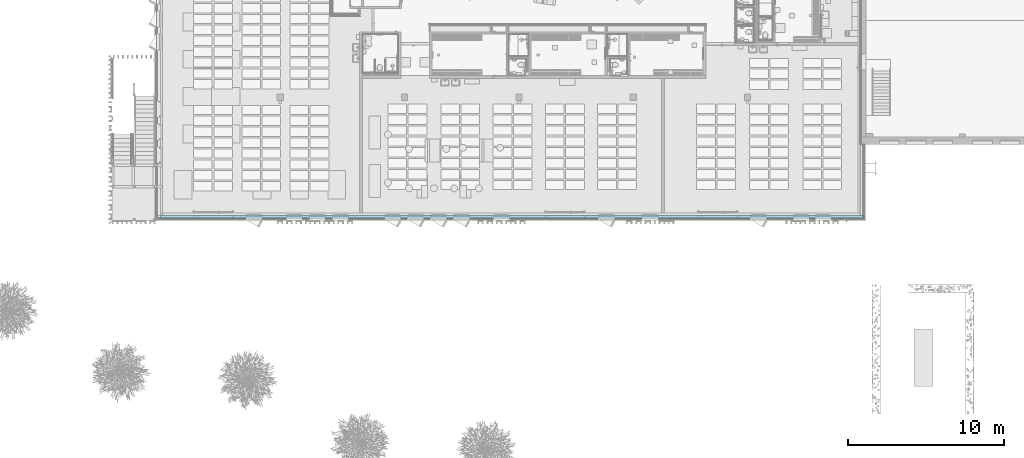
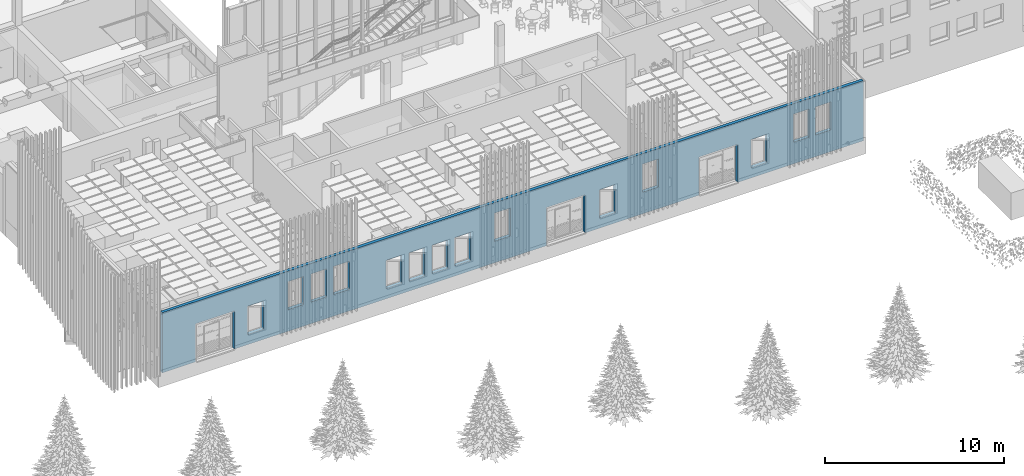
# One storey, part 180 of 301: 1 building element part, 20 openings, 1 element without a shape of its own.
"""IFC2X3 building model written with IfcOpenShell, lengths in millimetres."""

from ifc_helpers import new_model, entity, si_unit, converted_unit, derived_unit, money_unit, direction, frame, origin_with_axes, place, context, subcontext, project, spatial, faceted_brep, material, type_object, element, aggregate, save


model = new_model("IFC2X3")

# Units and contexts
model_context = context("Model", 3, precision=0.01, world=origin_with_axes(), true_north=direction((0.0, 1.0)))
body_context = subcontext(model_context, "Body", "Model", "MODEL_VIEW")
ifc_project = project(units=[si_unit("LENGTHUNIT", "METRE", prefix="MILLI"), si_unit("AREAUNIT", "SQUARE_METRE"), si_unit("VOLUMEUNIT", "CUBIC_METRE"), converted_unit("PLANEANGLEUNIT", "DEGREE", entity("IfcPlaneAngleMeasure", 0.0174532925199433), si_unit("PLANEANGLEUNIT", "RADIAN"), dimensions=[0, 0, 0, 0, 0, 0, 0]), money_unit("EUR"), converted_unit("TIMEUNIT", "Year", entity("IfcTimeMeasure", 31557600.0), si_unit("TIMEUNIT", "SECOND"), dimensions=[0, 0, 1, 0, 0, 0, 0]), si_unit("MASSUNIT", "GRAM", prefix="KILO"), si_unit("THERMODYNAMICTEMPERATUREUNIT", "DEGREE_CELSIUS"), si_unit("LUMINOUSINTENSITYUNIT", "LUMEN"), si_unit("ENERGYUNIT", "JOULE", prefix="MEGA"), derived_unit("THERMALCONDUCTANCEUNIT", [(si_unit("POWERUNIT", "WATT"), 1), (si_unit("LENGTHUNIT", "METRE"), -1), (si_unit("THERMODYNAMICTEMPERATUREUNIT", "KELVIN"), -1)]), derived_unit("SPECIFICHEATCAPACITYUNIT", [(si_unit("ENERGYUNIT", "JOULE"), 1), (si_unit("MASSUNIT", "GRAM", prefix="KILO"), -1), (si_unit("THERMODYNAMICTEMPERATUREUNIT", "KELVIN"), -1)]), derived_unit("MASSDENSITYUNIT", [(si_unit("MASSUNIT", "GRAM", prefix="KILO"), 1), (si_unit("VOLUMEUNIT", "CUBIC_METRE"), -1)])], contexts=[model_context])

# Site, building, storey
site_placement = place(None, frame((0.0, 0.0, 8650.0), z_axis=(0.0, 0.0, 1.0), x_axis=(1.0, 0.0, 0.0)))
site = spatial("IfcSite", under=ifc_project, at=site_placement, Name="43301:001:0844", CompositionType="ELEMENT")
building_placement = place(site_placement, origin_with_axes())
building = spatial("IfcBuilding", under=site, at=building_placement, Name="Kuressaare Ametikooli tuulikute mehaanikute õppekorpus", CompositionType="ELEMENT")
storey_placement = place(building_placement, origin_with_axes())
storey = spatial("IfcBuildingStorey", under=building, at=storey_placement, Name="1.korrus", CompositionType="ELEMENT", Elevation=0.0)

# Wall, openings, building element part
wall_type = type_object("IfcWallType", Name="VS1 437", PredefinedType="NOTDEFINED")
wall_placement = place(storey_placement, frame((133024.9464416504, 9123.838490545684, 0.0), z_axis=(0.0, 0.0, 1.0), x_axis=(-1.0, 0.0, 0.0)))
wall = element("IfcWall", 1, at=wall_placement, inside=storey, type_object=wall_type, Name="Sisesein")
opening_1_placement = place(wall_placement, frame((26976.99415685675, 0.0, 700.0), z_axis=(0.0, 0.0, 1.0), x_axis=(1.0, 0.0, 0.0)))
element("IfcOpeningElement", 2, at=opening_1_placement, cuts=wall, Name="A-1g", context=body_context, shape_type="Brep", body=[
    faceted_brep([(-504.9999999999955, 219.9999999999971, 0.0), (-504.9999999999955, 219.9999999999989, 1910.0), (-504.9999999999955, 437.9999999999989, 1910.0), (-504.9999999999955, 437.9999999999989, 0.0), (-504.9999999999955, -1.000000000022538, 0.0), (-504.9999999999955, -1.000000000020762, 1910.0), (504.9999999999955, 219.9999999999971, 1910.0), (504.9999999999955, 437.9999999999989, 1910.0), (504.9999999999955, -1.000000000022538, 1910.0), (504.9999999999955, 437.9999999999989, 0.0), (504.9999999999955, 219.9999999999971, 0.0), (504.9999999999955, -1.000000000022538, 0.0)], [[[0, 1, 2, 3]], [[1, 0, 4, 5]], [[6, 7, 2, 1, 5, 8]], [[7, 9, 3, 2]], [[0, 3, 9, 10, 11, 4]], [[5, 4, 11, 8]], [[6, 10, 9, 7]], [[10, 6, 8, 11]]]),
])
opening_2_placement = place(wall_placement, frame((29926.99415685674, 0.0, 700.0000000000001), z_axis=(0.0, 0.0, 1.0), x_axis=(1.0, 0.0, 0.0)))
element("IfcOpeningElement", 3, at=opening_2_placement, cuts=wall, Name="A-1g", context=body_context, shape_type="Brep", body=[
    faceted_brep([(-504.9999999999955, 219.9999999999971, 0.0), (-504.9999999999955, 219.9999999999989, 1910.0), (-504.9999999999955, 437.9999999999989, 1910.0), (-504.9999999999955, 437.9999999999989, 0.0), (-504.9999999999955, -1.000000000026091, 0.0), (-504.9999999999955, -1.000000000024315, 1910.0), (504.9999999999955, 219.9999999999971, 1910.0), (504.9999999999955, 437.9999999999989, 1910.0), (504.9999999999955, -1.000000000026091, 1910.0), (504.9999999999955, 437.9999999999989, 0.0), (504.9999999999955, 219.9999999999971, 0.0), (504.9999999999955, -1.000000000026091, 0.0)], [[[0, 1, 2, 3]], [[1, 0, 4, 5]], [[6, 7, 2, 1, 5, 8]], [[7, 9, 3, 2]], [[0, 3, 9, 10, 11, 4]], [[5, 4, 11, 8]], [[6, 10, 9, 7]], [[10, 6, 8, 11]]]),
])
opening_3_placement = place(wall_placement, frame((2241.190539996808, 0.0, 1475.000000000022), z_axis=(0.0, 0.0, 1.0), x_axis=(1.0, 0.0, 0.0)))
element("IfcOpeningElement", 4, at=opening_3_placement, cuts=wall, Name="A-1g,SE", context=body_context, shape_type="Brep", body=[
    faceted_brep([(-504.9999999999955, 220.0000000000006, 0.0), (-504.9999999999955, 220.0000000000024, 1910.0), (-504.9999999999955, 437.9999999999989, 1910.0), (-504.9999999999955, 437.9999999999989, 0.0), (-504.9999999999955, -1.000000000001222, 0.0), (-504.9999999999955, -0.9999999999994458, 1910.0), (504.9999999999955, 220.0000000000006, 1910.0), (504.9999999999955, 437.9999999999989, 1910.0), (504.9999999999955, -1.000000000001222, 1910.0), (504.9999999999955, 437.9999999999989, 0.0), (504.9999999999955, 220.0000000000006, 0.0), (504.9999999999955, -1.000000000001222, 0.0)], [[[0, 1, 2, 3]], [[1, 0, 4, 5]], [[6, 7, 2, 1, 5, 8]], [[7, 9, 3, 2]], [[0, 3, 9, 10, 11, 4]], [[5, 4, 11, 8]], [[6, 10, 9, 7]], [[10, 6, 8, 11]]]),
])
opening_4_placement = place(wall_placement, frame((13381.72835363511, 0.0, 1475.000000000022), z_axis=(0.0, 0.0, 1.0), x_axis=(1.0, 0.0, 0.0)))
element("IfcOpeningElement", 5, at=opening_4_placement, cuts=wall, Name="A-1g,SE", context=body_context, shape_type="Brep", body=[
    faceted_brep([(-504.9999999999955, 219.9999999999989, 0.0), (-504.9999999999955, 220.0000000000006, 1910.0), (-504.9999999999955, 437.9999999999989, 1910.0), (-504.9999999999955, 437.9999999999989, 0.0), (-504.9999999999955, -1.000000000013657, 0.0), (-504.9999999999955, -1.00000000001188, 1910.0), (504.9999999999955, 219.9999999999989, 1910.0), (504.9999999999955, 437.9999999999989, 1910.0), (504.9999999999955, -1.000000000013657, 1910.0), (504.9999999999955, 437.9999999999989, 0.0), (504.9999999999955, 219.9999999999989, 0.0), (504.9999999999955, -1.000000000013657, 0.0)], [[[0, 1, 2, 3]], [[1, 0, 4, 5]], [[6, 7, 2, 1, 5, 8]], [[7, 9, 3, 2]], [[0, 3, 9, 10, 11, 4]], [[5, 4, 11, 8]], [[6, 10, 9, 7]], [[10, 6, 8, 11]]]),
])
opening_5_placement = place(wall_placement, frame((25501.99415685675, 0.0, 700.0), z_axis=(0.0, 0.0, 1.0), x_axis=(1.0, 0.0, 0.0)))
element("IfcOpeningElement", 6, at=opening_5_placement, cuts=wall, Name="A-1g", context=body_context, shape_type="Brep", body=[
    faceted_brep([(-504.9999999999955, 219.9999999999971, 0.0), (-504.9999999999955, 219.9999999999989, 1910.0), (-504.9999999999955, 437.9999999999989, 1910.0), (-504.9999999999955, 437.9999999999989, 0.0), (-504.9999999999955, -1.000000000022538, 0.0), (-504.9999999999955, -1.000000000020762, 1910.0), (504.9999999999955, 219.9999999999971, 1910.0), (504.9999999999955, 437.9999999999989, 1910.0), (504.9999999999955, -1.000000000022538, 1910.0), (504.9999999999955, 437.9999999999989, 0.0), (504.9999999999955, 219.9999999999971, 0.0), (504.9999999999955, -1.000000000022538, 0.0)], [[[0, 1, 2, 3]], [[1, 0, 4, 5]], [[6, 7, 2, 1, 5, 8]], [[7, 9, 3, 2]], [[0, 3, 9, 10, 11, 4]], [[5, 4, 11, 8]], [[6, 10, 9, 7]], [[10, 6, 8, 11]]]),
])
opening_6_placement = place(wall_placement, frame((6401.877929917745, 0.0, 700.0), z_axis=(0.0, 0.0, 1.0), x_axis=(1.0, 0.0, 0.0)))
element("IfcOpeningElement", 7, at=opening_6_placement, cuts=wall, Name="A-1g", context=body_context, shape_type="Brep", body=[
    faceted_brep([(-504.9999999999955, 220.0000000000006, 0.0), (-504.9999999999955, 220.0000000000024, 1910.0), (-504.9999999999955, 437.9999999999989, 1910.0), (-504.9999999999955, 437.9999999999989, 0.0), (-504.9999999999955, -1.000000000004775, 0.0), (-504.9999999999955, -1.000000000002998, 1910.0), (504.9999999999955, 220.0000000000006, 1910.0), (504.9999999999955, 437.9999999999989, 1910.0), (504.9999999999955, -1.000000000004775, 1910.0), (504.9999999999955, 437.9999999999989, 0.0), (504.9999999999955, 220.0000000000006, 0.0), (504.9999999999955, -1.000000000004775, 0.0)], [[[0, 1, 2, 3]], [[1, 0, 4, 5]], [[6, 7, 2, 1, 5, 8]], [[7, 9, 3, 2]], [[0, 3, 9, 10, 11, 4]], [[5, 4, 11, 8]], [[6, 10, 9, 7]], [[10, 6, 8, 11]]]),
])
opening_7_placement = place(wall_placement, frame((22926.99691245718, 0.0, 1475.000000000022), z_axis=(0.0, 0.0, 1.0), x_axis=(1.0, 0.0, 0.0)))
element("IfcOpeningElement", 8, at=opening_7_placement, cuts=wall, Name="A-1g,SE", context=body_context, shape_type="Brep", body=[
    faceted_brep([(-504.9999999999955, 219.9999999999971, 0.0), (-504.9999999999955, 219.9999999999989, 1910.0), (-504.9999999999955, 437.9999999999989, 1910.0), (-504.9999999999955, 437.9999999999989, 0.0), (-504.9999999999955, -1.000000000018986, 0.0), (-504.9999999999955, -1.000000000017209, 1910.0), (504.9999999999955, 219.9999999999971, 1910.0), (504.9999999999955, 437.9999999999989, 1910.0), (504.9999999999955, -1.000000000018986, 1910.0), (504.9999999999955, 437.9999999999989, 0.0), (504.9999999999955, 219.9999999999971, 0.0), (504.9999999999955, -1.000000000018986, 0.0)], [[[0, 1, 2, 3]], [[1, 0, 4, 5]], [[6, 7, 2, 1, 5, 8]], [[7, 9, 3, 2]], [[0, 3, 9, 10, 11, 4]], [[5, 4, 11, 8]], [[6, 10, 9, 7]], [[10, 6, 8, 11]]]),
])
opening_8_placement = place(wall_placement, frame((38843.87792991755, 0.0, 700.0), z_axis=(0.0, 0.0, 1.0), x_axis=(1.0, 0.0, 0.0)))
element("IfcOpeningElement", 9, at=opening_8_placement, cuts=wall, Name="A-1g", context=body_context, shape_type="Brep", body=[
    faceted_brep([(-504.9999999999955, 219.9999999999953, 0.0), (-504.9999999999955, 219.9999999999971, 1910.0), (-504.9999999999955, 437.9999999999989, 1910.0), (-504.9999999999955, 437.9999999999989, 0.0), (-504.9999999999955, -1.000000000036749, 0.0), (-504.9999999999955, -1.000000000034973, 1910.0), (504.9999999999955, 219.9999999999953, 1910.0), (504.9999999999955, 437.9999999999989, 1910.0), (504.9999999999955, -1.000000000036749, 1910.0), (504.9999999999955, 437.9999999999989, 0.0), (504.9999999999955, 219.9999999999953, 0.0), (504.9999999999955, -1.000000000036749, 0.0)], [[[0, 1, 2, 3]], [[1, 0, 4, 5]], [[6, 7, 2, 1, 5, 8]], [[7, 9, 3, 2]], [[0, 3, 9, 10, 11, 4]], [[5, 4, 11, 8]], [[6, 10, 9, 7]], [[10, 6, 8, 11]]]),
])
opening_9_placement = place(wall_placement, frame((16176.99691245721, 0.0, 700.0), z_axis=(0.0, 0.0, 1.0), x_axis=(1.0, 0.0, 0.0)))
element("IfcOpeningElement", 10, at=opening_9_placement, cuts=wall, Name="A-1g", context=body_context, shape_type="Brep", body=[
    faceted_brep([(-504.9999999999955, 219.9999999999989, 0.0), (-504.9999999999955, 220.0000000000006, 1910.0), (-504.9999999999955, 437.9999999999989, 1910.0), (-504.9999999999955, 437.9999999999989, 0.0), (-504.9999999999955, -1.000000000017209, 0.0), (-504.9999999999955, -1.000000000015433, 1910.0), (504.9999999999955, 219.9999999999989, 1910.0), (504.9999999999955, 437.9999999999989, 1910.0), (504.9999999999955, -1.000000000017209, 1910.0), (504.9999999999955, 437.9999999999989, 0.0), (504.9999999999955, 219.9999999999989, 0.0), (504.9999999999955, -1.000000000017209, 0.0)], [[[0, 1, 2, 3]], [[1, 0, 4, 5]], [[6, 7, 2, 1, 5, 8]], [[7, 9, 3, 2]], [[0, 3, 9, 10, 11, 4]], [[5, 4, 11, 8]], [[6, 10, 9, 7]], [[10, 6, 8, 11]]]),
])
opening_10_placement = place(wall_placement, frame((3661.862783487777, 0.0, 1475.000000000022), z_axis=(0.0, 0.0, 1.0), x_axis=(1.0, 0.0, 0.0)))
element("IfcOpeningElement", 11, at=opening_10_placement, cuts=wall, Name="A-1g,SE", context=body_context, shape_type="Brep", body=[
    faceted_brep([(-504.9999999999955, 220.0000000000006, 0.0), (-504.9999999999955, 220.0000000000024, 1910.0), (-504.9999999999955, 437.9999999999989, 1910.0), (-504.9999999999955, 437.9999999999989, 0.0), (-504.9999999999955, -1.000000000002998, 0.0), (-504.9999999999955, -1.000000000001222, 1910.0), (504.9999999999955, 220.0000000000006, 1910.0), (504.9999999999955, 437.9999999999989, 1910.0), (504.9999999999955, -1.000000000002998, 1910.0), (504.9999999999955, 437.9999999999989, 0.0), (504.9999999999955, 220.0000000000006, 0.0), (504.9999999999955, -1.000000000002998, 0.0)], [[[0, 1, 2, 3]], [[1, 0, 4, 5]], [[6, 7, 2, 1, 5, 8]], [[7, 9, 3, 2]], [[0, 3, 9, 10, 11, 4]], [[5, 4, 11, 8]], [[6, 10, 9, 7]], [[10, 6, 8, 11]]]),
])
opening_11_placement = place(wall_placement, frame((36251.877858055, 0.0, 1475.000000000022), z_axis=(0.0, 0.0, 1.0), x_axis=(1.0, 0.0, 0.0)))
element("IfcOpeningElement", 12, at=opening_11_placement, cuts=wall, Name="A-1g,SE", context=body_context, shape_type="Brep", body=[
    faceted_brep([(-504.9999999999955, 219.9999999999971, 0.0), (-504.9999999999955, 219.9999999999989, 1910.0), (-504.9999999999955, 437.9999999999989, 1910.0), (-504.9999999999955, 437.9999999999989, 0.0), (-504.9999999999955, -1.00000000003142, 0.0), (-504.9999999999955, -1.000000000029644, 1910.0), (504.9999999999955, 219.9999999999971, 1910.0), (504.9999999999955, 437.9999999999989, 1910.0), (504.9999999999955, -1.00000000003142, 1910.0), (504.9999999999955, 437.9999999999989, 0.0), (504.9999999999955, 219.9999999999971, 0.0), (504.9999999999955, -1.00000000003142, 0.0)], [[[0, 1, 2, 3]], [[1, 0, 4, 5]], [[6, 7, 2, 1, 5, 8]], [[7, 9, 3, 2]], [[0, 3, 9, 10, 11, 4]], [[5, 4, 11, 8]], [[6, 10, 9, 7]], [[10, 6, 8, 11]]]),
])
opening_12_placement = place(wall_placement, frame((33301.87785805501, 0.0, 1475.000000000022), z_axis=(0.0, 0.0, 1.0), x_axis=(1.0, 0.0, 0.0)))
element("IfcOpeningElement", 13, at=opening_12_placement, cuts=wall, Name="A-1g,SE", context=body_context, shape_type="Brep", body=[
    faceted_brep([(-504.9999999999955, 219.9999999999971, 0.0), (-504.9999999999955, 219.9999999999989, 1910.0), (-504.9999999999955, 437.9999999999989, 1910.0), (-504.9999999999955, 437.9999999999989, 0.0), (-504.9999999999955, -1.000000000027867, 0.0), (-504.9999999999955, -1.000000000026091, 1910.0), (504.9999999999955, 219.9999999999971, 1910.0), (504.9999999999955, 437.9999999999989, 1910.0), (504.9999999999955, -1.000000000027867, 1910.0), (504.9999999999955, 437.9999999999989, 0.0), (504.9999999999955, 219.9999999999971, 0.0), (504.9999999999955, -1.000000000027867, 0.0)], [[[0, 1, 2, 3]], [[1, 0, 4, 5]], [[6, 7, 2, 1, 5, 8]], [[7, 9, 3, 2]], [[0, 3, 9, 10, 11, 4]], [[5, 4, 11, 8]], [[6, 10, 9, 7]], [[10, 6, 8, 11]]]),
])
opening_13_placement = place(wall_placement, frame((34776.877858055, 0.0, 1475.000000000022), z_axis=(0.0, 0.0, 1.0), x_axis=(1.0, 0.0, 0.0)))
element("IfcOpeningElement", 14, at=opening_13_placement, cuts=wall, Name="A-1g,SE", context=body_context, shape_type="Brep", body=[
    faceted_brep([(-504.9999999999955, 219.9999999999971, 0.0), (-504.9999999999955, 219.9999999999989, 1910.0), (-504.9999999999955, 437.9999999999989, 1910.0), (-504.9999999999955, 437.9999999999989, 0.0), (-504.9999999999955, -1.000000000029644, 0.0), (-504.9999999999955, -1.000000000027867, 1910.0), (504.9999999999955, 219.9999999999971, 1910.0), (504.9999999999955, 437.9999999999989, 1910.0), (504.9999999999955, -1.000000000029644, 1910.0), (504.9999999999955, 437.9999999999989, 0.0), (504.9999999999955, 219.9999999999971, 0.0), (504.9999999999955, -1.000000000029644, 0.0)], [[[0, 1, 2, 3]], [[1, 0, 4, 5]], [[6, 7, 2, 1, 5, 8]], [[7, 9, 3, 2]], [[0, 3, 9, 10, 11, 4]], [[5, 4, 11, 8]], [[6, 10, 9, 7]], [[10, 6, 8, 11]]]),
])
opening_14_placement = place(wall_placement, frame((18848.67342500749, 0.0, 0.0), z_axis=(0.0, 0.0, 1.0), x_axis=(1.0, 0.0, 0.0)))
element("IfcOpeningElement", 15, at=opening_14_placement, cuts=wall, Name="Ava seinas", context=body_context, shape_type="Brep", body=[
    faceted_brep([(-1219.999999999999, 139.9999999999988, 0.0), (-1219.999999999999, 140.0000000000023, 2570.0), (-1219.999999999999, 438.0000000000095, 2570.0), (-1219.999999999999, 438.0000000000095, 0.0), (1219.999999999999, 140.0000000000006, 2570.0), (-1250.0, 139.9999999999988, 0.0), (-1250.0, 140.0000000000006, 2600.0), (1250.0, 139.9999999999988, 2600.0), (1250.0, 139.9999999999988, 0.0), (1219.999999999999, 139.9999999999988, 0.0), (1219.999999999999, 438.0000000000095, 2570.0), (1219.999999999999, 438.0000000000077, 0.0), (1250.0, -1.00000000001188, 0.0), (-1250.0, -1.00000000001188, 0.0), (-1250.0, -1.000000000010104, 2600.0), (1250.0, -1.00000000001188, 2600.0)], [[[0, 1, 2, 3]], [[4, 1, 0, 5, 6, 7, 8, 9]], [[1, 4, 10, 2]], [[10, 11, 3, 2]], [[9, 0, 3, 11]], [[0, 9, 8, 12, 13, 5]], [[6, 5, 13, 14]], [[7, 6, 14, 15]], [[8, 7, 15, 12]], [[4, 9, 11, 10]], [[14, 13, 12, 15]]]),
])
opening_15_placement = place(wall_placement, frame((41461.22668595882, 0.0, 0.0), z_axis=(0.0, 0.0, 1.0), x_axis=(1.0, 0.0, 0.0)))
element("IfcOpeningElement", 16, at=opening_15_placement, cuts=wall, Name="Ava seinas", context=body_context, shape_type="Brep", body=[
    faceted_brep([(-1219.999999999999, 139.9999999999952, 0.0), (-1219.999999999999, 139.999999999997, 2570.0), (-1219.999999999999, 438.0000000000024, 2570.0), (-1219.999999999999, 438.0000000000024, 0.0), (1219.999999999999, 139.9999999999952, 2570.0), (-1250.0, 139.9999999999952, 0.0), (-1250.0, 139.999999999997, 2600.0), (1250.0, 139.9999999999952, 2600.0), (1250.0, 139.9999999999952, 0.0), (1219.999999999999, 139.9999999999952, 0.0), (1219.999999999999, 438.0000000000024, 2570.0), (1219.999999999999, 438.0000000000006, 0.0), (1250.0, -1.000000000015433, 0.0), (-1250.0, -1.000000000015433, 0.0), (-1250.0, -1.000000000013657, 2600.0), (1250.0, -1.000000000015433, 2600.0)], [[[0, 1, 2, 3]], [[4, 1, 0, 5, 6, 7, 8, 9]], [[1, 4, 10, 2]], [[10, 11, 3, 2]], [[9, 0, 3, 11]], [[0, 9, 8, 12, 13, 5]], [[6, 5, 13, 14]], [[7, 6, 14, 15]], [[8, 7, 15, 12]], [[4, 9, 11, 10]], [[14, 13, 12, 15]]]),
])
opening_16_placement = place(wall_placement, frame((18848.67342500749, 0.0, 0.0), z_axis=(0.0, 0.0, 1.0), x_axis=(1.0, 0.0, 0.0)))
element("IfcOpeningElement", 17, at=opening_16_placement, cuts=wall, Name="TÕU25x26", context=body_context, shape_type="Brep", body=[
    faceted_brep([(-1250.0, 436.9999999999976, 0.0), (-1250.0, 436.9999999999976, 2600.0), (-1250.0, 437.9999999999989, 2600.0), (-1250.0, 437.9999999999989, 0.0), (-1250.0, -0.9999999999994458, 0.0), (-1250.0, -0.9999999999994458, 2600.0), (1250.0, 436.9999999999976, 2600.0), (1250.0, 437.9999999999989, 2600.0), (1250.0, 437.9999999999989, 0.0), (1250.0, 436.9999999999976, 0.0), (1250.0, -0.9999999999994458, 0.0), (1250.0, -0.9999999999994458, 2600.0)], [[[0, 1, 2, 3]], [[1, 0, 4, 5]], [[1, 6, 7, 2]], [[8, 3, 2, 7]], [[9, 0, 3, 8]], [[0, 9, 10, 4]], [[5, 4, 10, 11]], [[6, 1, 5, 11]], [[6, 9, 8, 7]], [[9, 6, 11, 10]]]),
])
opening_17_placement = place(wall_placement, frame((9019.226685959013, 0.0, 0.0), z_axis=(0.0, 0.0, 1.0), x_axis=(1.0, 0.0, 0.0)))
element("IfcOpeningElement", 18, at=opening_17_placement, cuts=wall, Name="Ava seinas", context=body_context, shape_type="Brep", body=[
    faceted_brep([(-1219.999999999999, 139.9999999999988, 0.0), (-1219.999999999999, 140.0000000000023, 2570.0), (-1219.999999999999, 438.0000000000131, 2570.0), (-1219.999999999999, 438.0000000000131, 0.0), (1219.999999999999, 140.0000000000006, 2570.0), (-1250.0, 139.9999999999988, 0.0), (-1250.0, 140.0000000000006, 2600.0), (1250.0, 139.9999999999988, 2600.0), (1250.0, 139.9999999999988, 0.0), (1219.999999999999, 139.9999999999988, 0.0), (1219.999999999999, 438.0000000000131, 2570.0), (1219.999999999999, 438.0000000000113, 0.0), (1250.0, -1.000000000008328, 0.0), (-1250.0, -1.000000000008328, 0.0), (-1250.0, -1.000000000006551, 2600.0), (1250.0, -1.000000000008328, 2600.0)], [[[0, 1, 2, 3]], [[4, 1, 0, 5, 6, 7, 8, 9]], [[1, 4, 10, 2]], [[10, 11, 3, 2]], [[9, 0, 3, 11]], [[0, 9, 8, 12, 13, 5]], [[6, 5, 13, 14]], [[7, 6, 14, 15]], [[8, 7, 15, 12]], [[4, 9, 11, 10]], [[14, 13, 12, 15]]]),
])
opening_18_placement = place(wall_placement, frame((28451.99415685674, 0.0, 700.0), z_axis=(0.0, 0.0, 1.0), x_axis=(1.0, 0.0, 0.0)))
element("IfcOpeningElement", 19, at=opening_18_placement, cuts=wall, Name="A-1g", context=body_context, shape_type="Brep", body=[
    faceted_brep([(-504.9999999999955, 219.9999999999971, 0.0), (-504.9999999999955, 219.9999999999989, 1910.0), (-504.9999999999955, 437.9999999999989, 1910.0), (-504.9999999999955, 437.9999999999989, 0.0), (-504.9999999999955, -1.000000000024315, 0.0), (-504.9999999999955, -1.000000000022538, 1910.0), (504.9999999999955, 219.9999999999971, 1910.0), (504.9999999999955, 437.9999999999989, 1910.0), (504.9999999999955, -1.000000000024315, 1910.0), (504.9999999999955, 437.9999999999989, 0.0), (504.9999999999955, 219.9999999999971, 0.0), (504.9999999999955, -1.000000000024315, 0.0)], [[[0, 1, 2, 3]], [[1, 0, 4, 5]], [[6, 7, 2, 1, 5, 8]], [[7, 9, 3, 2]], [[0, 3, 9, 10, 11, 4]], [[5, 4, 11, 8]], [[6, 10, 9, 7]], [[10, 6, 8, 11]]]),
])
opening_19_placement = place(wall_placement, frame((9019.226685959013, 0.0, 0.0), z_axis=(0.0, 0.0, 1.0), x_axis=(1.0, 0.0, 0.0)))
element("IfcOpeningElement", 20, at=opening_19_placement, cuts=wall, Name="TÕU25x26", context=body_context, shape_type="Brep", body=[
    faceted_brep([(-1250.0, 436.9999999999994, 0.0), (-1250.0, 436.9999999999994, 2600.0), (-1250.0, 438.0000000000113, 2600.0), (-1250.0, 438.0000000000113, 0.0), (-1250.0, -1.000000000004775, 0.0), (-1250.0, -1.000000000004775, 2600.0), (1250.0, 436.9999999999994, 2600.0), (1250.0, 438.0000000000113, 2600.0), (1250.0, 438.0000000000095, 0.0), (1250.0, 436.9999999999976, 0.0), (1250.0, -1.000000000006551, 0.0), (1250.0, -1.000000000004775, 2600.0)], [[[0, 1, 2, 3]], [[1, 0, 4, 5]], [[1, 6, 7, 2]], [[8, 3, 2, 7]], [[9, 0, 3, 8]], [[0, 9, 10, 4]], [[5, 4, 10, 11]], [[6, 1, 5, 11]], [[6, 9, 8, 7]], [[9, 6, 11, 10]]]),
])
opening_20_placement = place(wall_placement, frame((41461.22668595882, 0.0, 0.0), z_axis=(0.0, 0.0, 1.0), x_axis=(1.0, 0.0, 0.0)))
element("IfcOpeningElement", 21, at=opening_20_placement, cuts=wall, Name="TÕU25x26", context=body_context, shape_type="Brep", body=[
    faceted_brep([(-1250.0, 436.9999999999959, 0.0), (-1250.0, 436.9999999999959, 2600.0), (-1250.0, 438.0000000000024, 2600.0), (-1250.0, 438.0000000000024, 0.0), (-1250.0, -1.000000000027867, 0.0), (-1250.0, -1.000000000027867, 2600.0), (1250.0, 436.9999999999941, 2600.0), (1250.0, 438.0000000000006, 2600.0), (1250.0, 438.0000000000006, 0.0), (1250.0, 436.9999999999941, 0.0), (1250.0, -1.000000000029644, 0.0), (1250.0, -1.000000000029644, 2600.0)], [[[0, 1, 2, 3]], [[1, 0, 4, 5]], [[1, 6, 7, 2]], [[8, 3, 2, 7]], [[9, 0, 3, 8]], [[0, 9, 10, 4]], [[5, 4, 10, 11]], [[6, 1, 5, 11]], [[6, 9, 8, 7]], [[9, 6, 11, 10]]]),
])
ifc_material = material(Name="Soojustus - Mineraalvill jäik")
building_element_part_placement = place(wall_placement, origin_with_axes())
building_element_part = element("IfcBuildingElementPart", 22, at=building_element_part_placement, material=ifc_material, Name="Soojustus - Mineraalvill jäik", context=body_context, shape_type="Brep", body=[
    faceted_brep([(42711.22668595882, 139.999999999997, 2600.000000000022), (42711.22668595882, 139.9999999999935, 0.0), (44846.71979646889, 139.999999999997, 0.0), (44846.71979646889, 139.999999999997, 4100.0), (-344.9999999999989, 140.0000000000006, 4100.0), (-344.9999999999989, 140.0000000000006, 0.0), (7769.226685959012, 139.9999999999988, 0.0), (7769.226685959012, 139.9999999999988, 2600.000000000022), (10269.22668595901, 139.9999999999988, 2600.000000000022), (10269.22668595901, 139.999999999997, 0.0), (17598.67342500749, 139.9999999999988, 0.0), (17598.67342500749, 139.9999999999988, 2600.000000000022), (20098.67342500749, 139.9999999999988, 2600.000000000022), (20098.67342500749, 139.999999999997, 0.0), (40211.22668595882, 139.9999999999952, 0.0), (40211.22668595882, 139.999999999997, 2600.000000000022), (27481.99415685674, 139.9999999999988, 700.0), (26471.99415685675, 139.9999999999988, 700.0), (26471.99415685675, 139.9999999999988, 2610.0), (27481.99415685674, 139.9999999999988, 2610.0), (29421.99415685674, 139.9999999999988, 2610.0), (30431.99415685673, 139.9999999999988, 2610.0), (30431.99415685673, 139.9999999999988, 700.0000000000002), (29421.99415685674, 139.9999999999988, 700.0000000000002), (26006.99415685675, 139.9999999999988, 700.0), (24996.99415685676, 139.9999999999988, 700.0), (24996.99415685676, 139.9999999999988, 2610.0), (26006.99415685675, 139.9999999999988, 2610.0), (1736.190539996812, 140.0000000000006, 3385.000000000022), (2746.190539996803, 140.0000000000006, 3385.000000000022), (2746.190539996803, 140.0000000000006, 1475.000000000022), (1736.190539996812, 140.0000000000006, 1475.000000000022), (13886.72835363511, 139.9999999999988, 1475.000000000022), (12876.72835363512, 139.9999999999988, 1475.000000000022), (12876.72835363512, 140.0000000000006, 3385.000000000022), (13886.72835363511, 139.9999999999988, 3385.000000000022), (22421.99691245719, 139.9999999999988, 3385.000000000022), (23431.99691245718, 139.9999999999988, 3385.000000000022), (23431.99691245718, 139.9999999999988, 1475.000000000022), (22421.99691245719, 139.9999999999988, 1475.000000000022), (6906.87792991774, 140.0000000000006, 700.0), (5896.877929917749, 140.0000000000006, 700.0), (5896.877929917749, 140.0000000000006, 2610.0), (6906.87792991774, 140.0000000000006, 2610.0), (15671.99691245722, 139.9999999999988, 2610.0), (16681.99691245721, 139.9999999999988, 2610.0), (16681.99691245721, 139.9999999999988, 700.0), (15671.99691245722, 139.9999999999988, 700.0), (4166.862783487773, 140.0000000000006, 1475.000000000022), (3156.862783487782, 140.0000000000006, 1475.000000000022), (3156.862783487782, 140.0000000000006, 3385.000000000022), (4166.862783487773, 140.0000000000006, 3385.000000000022), (38338.87792991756, 139.999999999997, 2610.0), (39348.87792991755, 139.999999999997, 2610.0), (39348.87792991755, 139.999999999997, 700.0), (38338.87792991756, 139.999999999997, 700.0), (33806.87785805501, 139.9999999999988, 1475.000000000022), (32796.87785805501, 139.9999999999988, 1475.000000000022), (32796.87785805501, 139.9999999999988, 3385.000000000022), (33806.87785805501, 139.9999999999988, 3385.000000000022), (34271.87785805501, 139.999999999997, 3385.000000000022), (35281.877858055, 139.999999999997, 3385.000000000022), (35281.877858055, 139.999999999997, 1475.000000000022), (34271.87785805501, 139.999999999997, 1475.000000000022), (36756.87785805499, 139.9999999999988, 1475.000000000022), (35746.877858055, 139.9999999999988, 1475.000000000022), (35746.877858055, 139.9999999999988, 3385.000000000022), (36756.87785805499, 139.9999999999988, 3385.000000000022), (28956.99415685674, 139.9999999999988, 2610.0), (28956.99415685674, 139.9999999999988, 700.0), (27946.99415685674, 139.9999999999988, 700.0), (27946.99415685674, 139.9999999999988, 2610.0), (42711.22668595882, 344.9999999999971, 2600.000000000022), (42711.22668595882, 344.9999999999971, 0.0), (44846.71979646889, 344.9999999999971, 0.0), (44846.71979646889, 344.9999999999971, 4100.0), (-344.9999999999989, 345.0000000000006, 4100.0), (-344.9999999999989, 345.0000000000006, 0.0), (7769.226685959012, 345.0000000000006, 0.0), (7769.226685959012, 344.9999999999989, 2600.000000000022), (10269.22668595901, 344.9999999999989, 2600.000000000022), (10269.22668595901, 344.9999999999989, 0.0), (17598.67342500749, 344.9999999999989, 0.0), (17598.67342500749, 344.9999999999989, 2600.000000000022), (20098.67342500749, 344.9999999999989, 2600.000000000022), (20098.67342500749, 344.9999999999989, 0.0), (40211.22668595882, 344.9999999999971, 0.0), (40211.22668595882, 344.9999999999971, 2600.000000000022), (27481.99415685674, 344.9999999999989, 700.0), (26471.99415685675, 344.9999999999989, 700.0), (26471.99415685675, 344.9999999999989, 2610.0), (27481.99415685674, 344.9999999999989, 2610.0), (29421.99415685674, 344.9999999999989, 2610.0), (30431.99415685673, 344.9999999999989, 2610.0), (30431.99415685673, 344.9999999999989, 700.0000000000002), (29421.99415685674, 344.9999999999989, 700.0000000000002), (26006.99415685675, 344.9999999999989, 700.0), (24996.99415685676, 344.9999999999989, 700.0), (24996.99415685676, 344.9999999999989, 2610.0), (26006.99415685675, 344.9999999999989, 2610.0), (1736.190539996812, 345.0000000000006, 3385.000000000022), (2746.190539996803, 345.0000000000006, 3385.000000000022), (2746.190539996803, 345.0000000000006, 1475.000000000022), (1736.190539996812, 345.0000000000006, 1475.000000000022), (13886.72835363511, 344.9999999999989, 1475.000000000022), (12876.72835363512, 344.9999999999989, 1475.000000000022), (12876.72835363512, 344.9999999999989, 3385.000000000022), (13886.72835363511, 344.9999999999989, 3385.000000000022), (22421.99691245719, 344.9999999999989, 3385.000000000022), (23431.99691245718, 344.9999999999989, 3385.000000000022), (23431.99691245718, 344.9999999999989, 1475.000000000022), (22421.99691245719, 344.9999999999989, 1475.000000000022), (6906.87792991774, 344.9999999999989, 700.0), (5896.877929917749, 344.9999999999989, 700.0), (5896.877929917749, 344.9999999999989, 2610.0), (6906.87792991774, 344.9999999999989, 2610.0), (15671.99691245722, 344.9999999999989, 2610.0), (16681.99691245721, 344.9999999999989, 2610.0), (16681.99691245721, 344.9999999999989, 700.0), (15671.99691245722, 344.9999999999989, 700.0), (4166.862783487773, 344.9999999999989, 1475.000000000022), (3156.862783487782, 344.9999999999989, 1475.000000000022), (3156.862783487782, 345.0000000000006, 3385.000000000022), (4166.862783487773, 345.0000000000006, 3385.000000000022), (38338.87792991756, 344.9999999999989, 2610.0), (39348.87792991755, 344.9999999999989, 2610.0), (39348.87792991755, 344.9999999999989, 700.0), (38338.87792991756, 344.9999999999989, 700.0), (33806.87785805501, 344.9999999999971, 1475.000000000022), (32796.87785805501, 344.9999999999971, 1475.000000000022), (32796.87785805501, 344.9999999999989, 3385.000000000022), (33806.87785805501, 344.9999999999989, 3385.000000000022), (34271.87785805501, 344.9999999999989, 3385.000000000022), (35281.877858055, 344.9999999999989, 3385.000000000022), (35281.877858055, 344.9999999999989, 1475.000000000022), (34271.87785805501, 344.9999999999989, 1475.000000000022), (36756.87785805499, 344.9999999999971, 1475.000000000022), (35746.877858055, 344.9999999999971, 1475.000000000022), (35746.877858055, 344.9999999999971, 3385.000000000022), (36756.87785805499, 344.9999999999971, 3385.000000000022), (28956.99415685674, 344.9999999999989, 700.0), (28956.99415685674, 344.9999999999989, 2610.0), (27946.99415685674, 344.9999999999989, 700.0), (27946.99415685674, 344.9999999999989, 2610.0)], [[[0, 1, 2, 3, 4, 5, 6, 7, 8, 9, 10, 11, 12, 13, 14, 15], [16, 17, 18, 19], [20, 21, 22, 23], [24, 25, 26, 27], [28, 29, 30, 31], [32, 33, 34, 35], [36, 37, 38, 39], [40, 41, 42, 43], [44, 45, 46, 47], [48, 49, 50, 51], [52, 53, 54, 55], [56, 57, 58, 59], [60, 61, 62, 63], [64, 65, 66, 67], [68, 69, 70, 71]], [[1, 0, 72, 73]], [[1, 73, 74, 2]], [[74, 75, 3, 2]], [[4, 3, 75, 76]], [[77, 5, 4, 76]], [[6, 5, 77, 78]], [[6, 78, 79, 7]], [[7, 79, 80, 8]], [[8, 80, 81, 9]], [[81, 82, 10, 9]], [[82, 83, 11, 10]], [[83, 84, 12, 11]], [[84, 85, 13, 12]], [[86, 14, 13, 85]], [[15, 14, 86, 87]], [[0, 15, 87, 72]], [[17, 16, 88, 89]], [[90, 18, 17, 89]], [[91, 19, 18, 90]], [[16, 19, 91, 88]], [[20, 92, 93, 21]], [[93, 94, 22, 21]], [[94, 95, 23, 22]], [[23, 95, 92, 20]], [[25, 24, 96, 97]], [[98, 26, 25, 97]], [[99, 27, 26, 98]], [[24, 27, 99, 96]], [[28, 100, 101, 29]], [[101, 102, 30, 29]], [[102, 103, 31, 30]], [[31, 103, 100, 28]], [[33, 32, 104, 105]], [[106, 34, 33, 105]], [[107, 35, 34, 106]], [[32, 35, 107, 104]], [[36, 108, 109, 37]], [[109, 110, 38, 37]], [[110, 111, 39, 38]], [[39, 111, 108, 36]], [[41, 40, 112, 113]], [[114, 42, 41, 113]], [[115, 43, 42, 114]], [[40, 43, 115, 112]], [[44, 116, 117, 45]], [[117, 118, 46, 45]], [[118, 119, 47, 46]], [[47, 119, 116, 44]], [[49, 48, 120, 121]], [[122, 50, 49, 121]], [[123, 51, 50, 122]], [[48, 51, 123, 120]], [[52, 124, 125, 53]], [[125, 126, 54, 53]], [[126, 127, 55, 54]], [[55, 127, 124, 52]], [[57, 56, 128, 129]], [[130, 58, 57, 129]], [[131, 59, 58, 130]], [[56, 59, 131, 128]], [[60, 132, 133, 61]], [[133, 134, 62, 61]], [[134, 135, 63, 62]], [[63, 135, 132, 60]], [[65, 64, 136, 137]], [[138, 66, 65, 137]], [[139, 67, 66, 138]], [[64, 67, 139, 136]], [[140, 69, 68, 141]], [[142, 70, 69, 140]], [[142, 143, 71, 70]], [[143, 141, 68, 71]], [[87, 86, 85, 84, 83, 82, 81, 80, 79, 78, 77, 76, 75, 74, 73, 72], [91, 90, 89, 88], [95, 94, 93, 92], [99, 98, 97, 96], [103, 102, 101, 100], [107, 106, 105, 104], [111, 110, 109, 108], [115, 114, 113, 112], [119, 118, 117, 116], [123, 122, 121, 120], [127, 126, 125, 124], [131, 130, 129, 128], [135, 134, 133, 132], [139, 138, 137, 136], [140, 141, 143, 142]]]),
])
aggregate(wall, [building_element_part])

save(model, "model.ifc")
